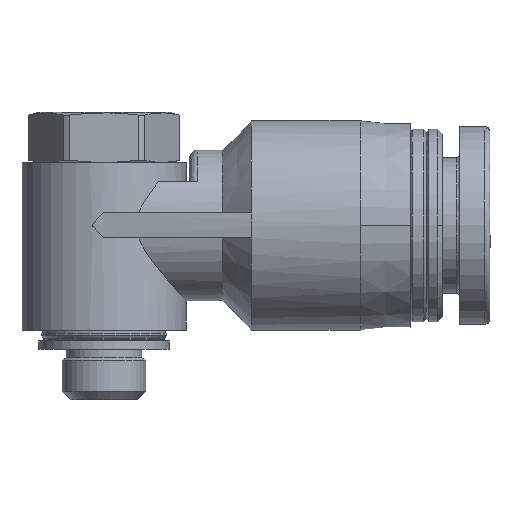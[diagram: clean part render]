
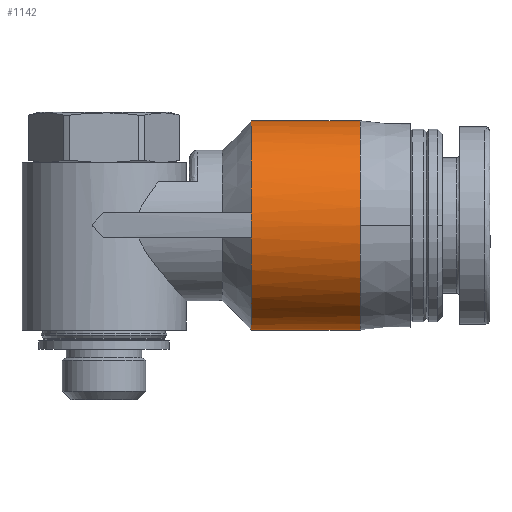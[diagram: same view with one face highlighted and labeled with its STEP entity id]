
A CAD part, front view. The second image highlights one B-rep face of the part: STEP entity #1142.
In plain terms, the highlighted cylindrical face has radius 6.25 mm (diameter 12.5 mm), a partial arc.
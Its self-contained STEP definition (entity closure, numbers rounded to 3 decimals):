
#43 = CARTESIAN_POINT ( 'NONE',  ( 8.8, -6.205, 11.15 ) ) ;
#48 = LINE ( 'NONE', #3153, #228 ) ;
#145 = EDGE_CURVE ( 'NONE', #2585, #2169, #2688, .T. ) ;
#212 = DIRECTION ( 'NONE',  ( 0., 0., -1. ) ) ;
#228 = VECTOR ( 'NONE', #1623, 1000. ) ;
#248 = CARTESIAN_POINT ( 'NONE',  ( 8.8, -6.205, 9.65 ) ) ;
#326 = EDGE_CURVE ( 'NONE', #800, #1554, #2501, .T. ) ;
#398 = DIRECTION ( 'NONE',  ( 0., 0.089, -0.996 ) ) ;
#439 = DIRECTION ( 'NONE',  ( 1., 0., 0. ) ) ;
#484 = FACE_OUTER_BOUND ( 'NONE', #645, .T. ) ;
#502 = CARTESIAN_POINT ( 'NONE',  ( 8.8, 0., 16.65 ) ) ;
#638 = CARTESIAN_POINT ( 'NONE',  ( 15.3, 0., 10.4 ) ) ;
#645 = EDGE_LOOP ( 'NONE', ( #1795, #1256, #2056, #663, #1306, #2254, #2356 ) ) ;
#663 = ORIENTED_EDGE ( 'NONE', *, *, #145, .T. ) ;
#729 = CARTESIAN_POINT ( 'NONE',  ( 8.8, 0., 16.65 ) ) ;
#756 = AXIS2_PLACEMENT_3D ( 'NONE', #1423, #2165, #1168 ) ;
#800 = VERTEX_POINT ( 'NONE', #502 ) ;
#813 = EDGE_CURVE ( 'NONE', #2585, #2767, #1272, .T. ) ;
#871 = DIRECTION ( 'NONE',  ( 0., 0.089, -0.996 ) ) ;
#911 = VERTEX_POINT ( 'NONE', #2332 ) ;
#1142 = ADVANCED_FACE ( '50', ( #484 ), #1745, .T. ) ;
#1168 = DIRECTION ( 'NONE',  ( 0., 0., -1. ) ) ;
#1190 = CARTESIAN_POINT ( 'NONE',  ( 8.8, -6.205, 11.15 ) ) ;
#1251 = AXIS2_PLACEMENT_3D ( 'NONE', #3035, #1986, #212 ) ;
#1256 = ORIENTED_EDGE ( 'NONE', *, *, #3037, .T. ) ;
#1265 = CARTESIAN_POINT ( 'NONE',  ( 8.8, -6.265, 10.148 ) ) ;
#1272 = B_SPLINE_CURVE_WITH_KNOTS ( 'NONE', 3,
 ( #248, #1265, #2289, #43 ),
 .UNSPECIFIED., .F., .F.,
 ( 4, 4 ),
 ( 0., 0.002 ),
 .UNSPECIFIED. ) ;
#1306 = ORIENTED_EDGE ( 'NONE', *, *, #2126, .T. ) ;
#1423 = CARTESIAN_POINT ( 'NONE',  ( 8.8, 0., 10.4 ) ) ;
#1460 = AXIS2_PLACEMENT_3D ( 'NONE', #638, #3158, #871 ) ;
#1523 = VERTEX_POINT ( 'NONE', #2380 ) ;
#1554 = VERTEX_POINT ( 'NONE', #2161 ) ;
#1623 = DIRECTION ( 'NONE',  ( 1., 0., 0. ) ) ;
#1672 = CIRCLE ( 'NONE', #2039, 6.25 ) ;
#1745 = CYLINDRICAL_SURFACE ( 'NONE', #1251, 6.25 ) ;
#1795 = ORIENTED_EDGE ( 'NONE', *, *, #326, .F. ) ;
#1880 = CIRCLE ( 'NONE', #1460, 6.25 ) ;
#1896 = CARTESIAN_POINT ( 'NONE',  ( 15.3, 0., 10.4 ) ) ;
#1947 = VECTOR ( 'NONE', #439, 1000. ) ;
#1986 = DIRECTION ( 'NONE',  ( 1., 0., 0. ) ) ;
#2039 = AXIS2_PLACEMENT_3D ( 'NONE', #1896, #2661, #398 ) ;
#2056 = ORIENTED_EDGE ( 'NONE', *, *, #813, .F. ) ;
#2095 = DIRECTION ( 'NONE',  ( 0., 0., -1. ) ) ;
#2126 = EDGE_CURVE ( 'NONE', #2169, #911, #48, .T. ) ;
#2152 = CIRCLE ( 'NONE', #756, 6.25 ) ;
#2161 = CARTESIAN_POINT ( 'NONE',  ( 15.3, 0., 16.65 ) ) ;
#2165 = DIRECTION ( 'NONE',  ( 1., 0., 0. ) ) ;
#2169 = VERTEX_POINT ( 'NONE', #2839 ) ;
#2254 = ORIENTED_EDGE ( 'NONE', *, *, #2774, .F. ) ;
#2289 = CARTESIAN_POINT ( 'NONE',  ( 8.8, -6.265, 10.652 ) ) ;
#2332 = CARTESIAN_POINT ( 'NONE',  ( 15.3, 0., 4.15 ) ) ;
#2356 = ORIENTED_EDGE ( 'NONE', *, *, #2773, .F. ) ;
#2380 = CARTESIAN_POINT ( 'NONE',  ( 15.3, -6.25, 10.4 ) ) ;
#2394 = CARTESIAN_POINT ( 'NONE',  ( 8.8, 0., 10.4 ) ) ;
#2501 = LINE ( 'NONE', #729, #1947 ) ;
#2585 = VERTEX_POINT ( 'NONE', #2823 ) ;
#2649 = DIRECTION ( 'NONE',  ( 1., 0., 0. ) ) ;
#2661 = DIRECTION ( 'NONE',  ( 1., 0., 0. ) ) ;
#2688 = CIRCLE ( 'NONE', #3104, 6.25 ) ;
#2767 = VERTEX_POINT ( 'NONE', #1190 ) ;
#2773 = EDGE_CURVE ( 'NONE', #1554, #1523, #1880, .T. ) ;
#2774 = EDGE_CURVE ( 'NONE', #1523, #911, #1672, .T. ) ;
#2823 = CARTESIAN_POINT ( 'NONE',  ( 8.8, -6.205, 9.65 ) ) ;
#2839 = CARTESIAN_POINT ( 'NONE',  ( 8.8, 0., 4.15 ) ) ;
#3035 = CARTESIAN_POINT ( 'NONE',  ( 8.8, 0., 10.4 ) ) ;
#3037 = EDGE_CURVE ( 'NONE', #800, #2767, #2152, .T. ) ;
#3104 = AXIS2_PLACEMENT_3D ( 'NONE', #2394, #2649, #2095 ) ;
#3153 = CARTESIAN_POINT ( 'NONE',  ( 8.8, 0., 4.15 ) ) ;
#3158 = DIRECTION ( 'NONE',  ( 1., 0., 0. ) ) ;
